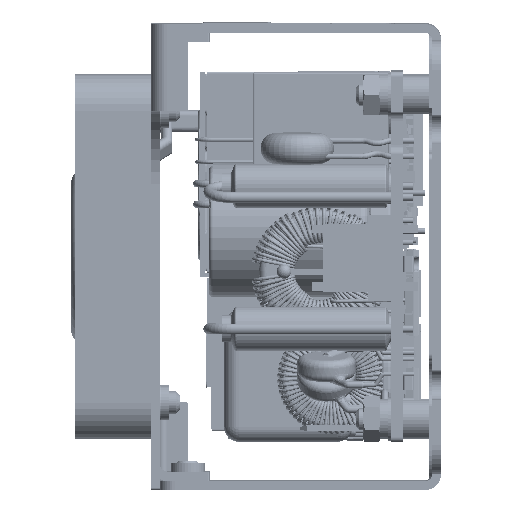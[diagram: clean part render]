
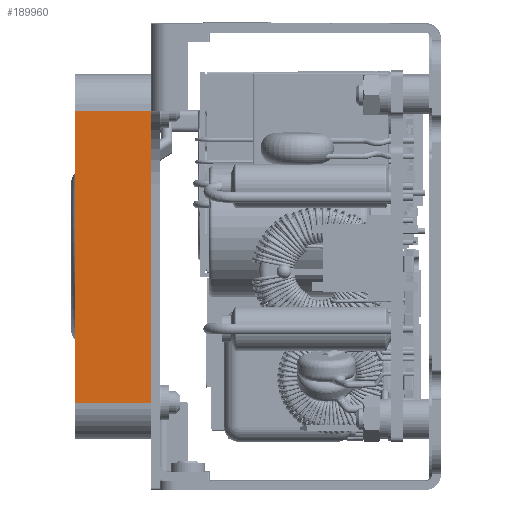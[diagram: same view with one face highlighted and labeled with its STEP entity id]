
A CAD part, left-side view. The second image highlights one B-rep face of the part: STEP entity #189960.
In plain terms, the highlighted planar face has unit normal (-1, 0, -0.002).
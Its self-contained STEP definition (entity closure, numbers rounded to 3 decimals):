
#1543 = LINE ( 'NONE', #181612, #173645 ) ;
#90471 = ORIENTED_EDGE ( 'NONE', *, *, #443645, .F. ) ;
#95963 = EDGE_CURVE ( 'NONE', #198365, #493726, #209140, .T. ) ;
#127062 = DIRECTION ( 'NONE',  ( 0., 1., 0. ) ) ;
#134545 = VECTOR ( 'NONE', #127062, 1000. ) ;
#139569 = DIRECTION ( 'NONE',  ( 0.002, 0., -1. ) ) ;
#170176 = DIRECTION ( 'NONE',  ( -1., 0., -0.002 ) ) ;
#173645 = VECTOR ( 'NONE', #139569, 1000. ) ;
#181612 = CARTESIAN_POINT ( 'NONE',  ( -56.86, 36.889, 33.989 ) ) ;
#189960 = ADVANCED_FACE ( 'NONE', ( #490998 ), #532758, .T. ) ;
#198365 = VERTEX_POINT ( 'NONE', #483104 ) ;
#206092 = VECTOR ( 'NONE', #497848, 1000. ) ;
#209140 = LINE ( 'NONE', #293756, #352757 ) ;
#217140 = CARTESIAN_POINT ( 'NONE',  ( -56.788, 47.443, -11.065 ) ) ;
#260313 = CARTESIAN_POINT ( 'NONE',  ( -56.82, 36.889, 8.935 ) ) ;
#293756 = CARTESIAN_POINT ( 'NONE',  ( -56.82, 47.389, 8.935 ) ) ;
#306225 = DIRECTION ( 'NONE',  ( -0.002, 0., 1. ) ) ;
#312799 = EDGE_CURVE ( 'NONE', #380915, #198365, #327820, .T. ) ;
#319264 = CARTESIAN_POINT ( 'NONE',  ( -56.852, 36.889, 28.935 ) ) ;
#327820 = LINE ( 'NONE', #319264, #206092 ) ;
#338047 = ORIENTED_EDGE ( 'NONE', *, *, #95963, .T. ) ;
#338174 = EDGE_LOOP ( 'NONE', ( #338047, #543114, #90471, #385765 ) ) ;
#339737 = DIRECTION ( 'NONE',  ( 0.002, 0., -1. ) ) ;
#352757 = VECTOR ( 'NONE', #339737, 1000. ) ;
#380915 = VERTEX_POINT ( 'NONE', #516793 ) ;
#385765 = ORIENTED_EDGE ( 'NONE', *, *, #312799, .T. ) ;
#387132 = AXIS2_PLACEMENT_3D ( 'NONE', #260313, #170176, #306225 ) ;
#407896 = CARTESIAN_POINT ( 'NONE',  ( -56.788, 47.389, -11.065 ) ) ;
#424045 = VERTEX_POINT ( 'NONE', #570024 ) ;
#435124 = LINE ( 'NONE', #217140, #134545 ) ;
#443645 = EDGE_CURVE ( 'NONE', #380915, #424045, #1543, .T. ) ;
#483104 = CARTESIAN_POINT ( 'NONE',  ( -56.852, 47.389, 28.935 ) ) ;
#490998 = FACE_OUTER_BOUND ( 'NONE', #338174, .T. ) ;
#493726 = VERTEX_POINT ( 'NONE', #407896 ) ;
#497848 = DIRECTION ( 'NONE',  ( 0., 1., 0. ) ) ;
#516793 = CARTESIAN_POINT ( 'NONE',  ( -56.852, 36.889, 28.935 ) ) ;
#523151 = EDGE_CURVE ( 'NONE', #424045, #493726, #435124, .T. ) ;
#532758 = PLANE ( 'NONE',  #387132 ) ;
#543114 = ORIENTED_EDGE ( 'NONE', *, *, #523151, .F. ) ;
#570024 = CARTESIAN_POINT ( 'NONE',  ( -56.788, 36.889, -11.065 ) ) ;
